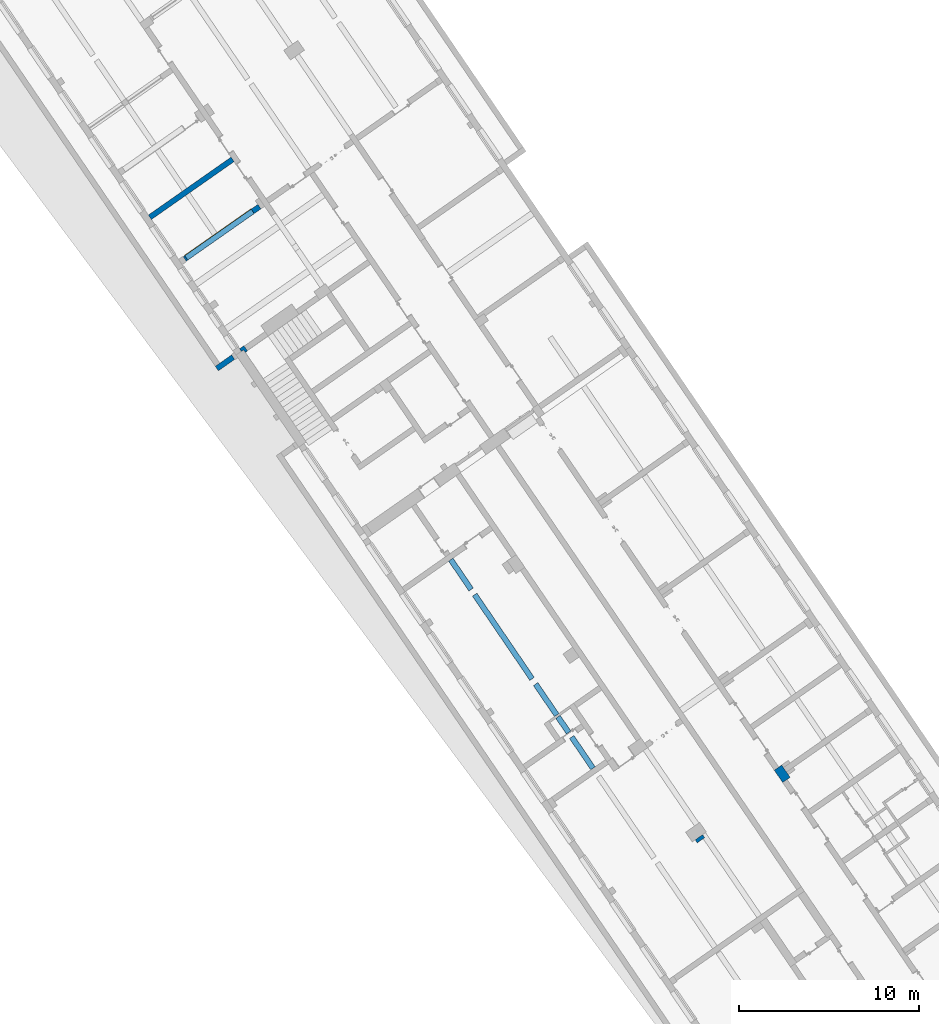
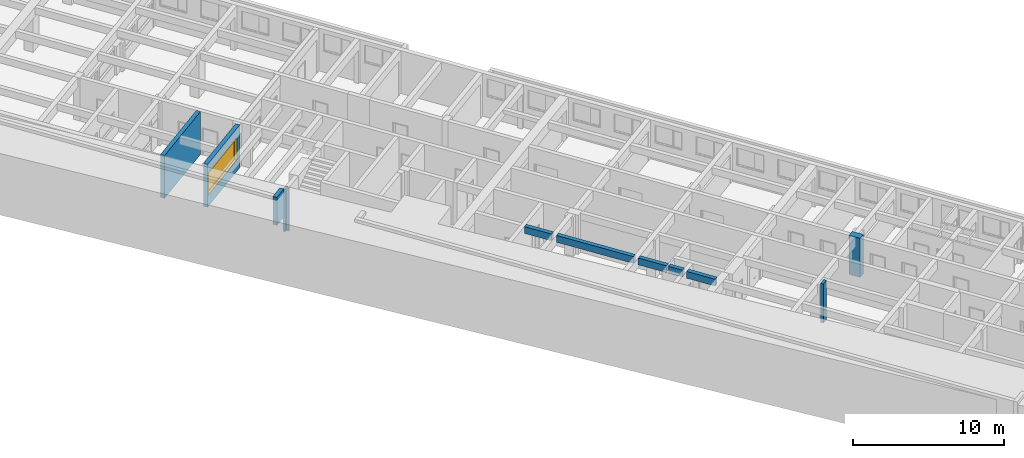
# One storey, part 16 of 112: 7 walls, 1 window, 1 opening.
"""IFC2X3 building model written with IfcOpenShell, lengths in millimetres."""

from ifc_helpers import new_model, entity, si_unit, converted_unit, derived_unit, direction, frame, frame_2d, origin, place, context, subcontext, project, spatial, polyline, rectangle, outline, extrude, source, transform, mapped, material, material_list, layer, layer_set, layer_usage, type_object, type_shapes, element, fill, save


model = new_model("IFC2X3")

# Units and contexts
model_context = context("Model", 3, precision=0.01, world=origin(), true_north=direction((6.123031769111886e-17, 1.0)))
body_context = subcontext(model_context, "Body", "Model", "MODEL_VIEW")
ifc_project = project(units=[si_unit("LENGTHUNIT", "METRE", prefix="MILLI"), si_unit("AREAUNIT", "SQUARE_METRE"), si_unit("VOLUMEUNIT", "CUBIC_METRE"), converted_unit("PLANEANGLEUNIT", "DEGREE", entity("IfcRatioMeasure", 0.017453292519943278), si_unit("PLANEANGLEUNIT", "RADIAN"), dimensions=[0, 0, 0, 0, 0, 0, 0]), si_unit("MASSUNIT", "GRAM", prefix="KILO"), derived_unit("MASSDENSITYUNIT", [(si_unit("MASSUNIT", "GRAM", prefix="KILO"), 1), (si_unit("LENGTHUNIT", "METRE"), -3)]), derived_unit("MOMENTOFINERTIAUNIT", [(si_unit("LENGTHUNIT", "METRE"), 4)]), si_unit("TIMEUNIT", "SECOND"), si_unit("FREQUENCYUNIT", "HERTZ"), si_unit("THERMODYNAMICTEMPERATUREUNIT", "DEGREE_CELSIUS"), derived_unit("THERMALTRANSMITTANCEUNIT", [(si_unit("MASSUNIT", "GRAM", prefix="KILO"), 1), (si_unit("THERMODYNAMICTEMPERATUREUNIT", "KELVIN"), -1), (si_unit("TIMEUNIT", "SECOND"), -3)]), derived_unit("THERMALCONDUCTANCEUNIT", [(si_unit("MASSUNIT", "GRAM", prefix="KILO"), 1), (si_unit("LENGTHUNIT", "METRE"), 1), (si_unit("THERMODYNAMICTEMPERATUREUNIT", "KELVIN"), -1), (si_unit("TIMEUNIT", "SECOND"), -3)]), derived_unit("VOLUMETRICFLOWRATEUNIT", [(si_unit("LENGTHUNIT", "METRE"), 3), (si_unit("TIMEUNIT", "SECOND"), -1)]), derived_unit("MASSFLOWRATEUNIT", [(si_unit("MASSUNIT", "GRAM", prefix="KILO"), 1), (si_unit("TIMEUNIT", "SECOND"), -1)]), derived_unit("ROTATIONALFREQUENCYUNIT", [(si_unit("TIMEUNIT", "SECOND"), -1)]), si_unit("ELECTRICCURRENTUNIT", "AMPERE"), si_unit("ELECTRICVOLTAGEUNIT", "VOLT"), si_unit("POWERUNIT", "WATT"), converted_unit("FORCEUNIT", "KIP", entity("IfcRatioMeasure", 2.088543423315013e-05), si_unit("FORCEUNIT", "NEWTON"), dimensions=[1, 1, -2, 0, 0, 0, 0]), si_unit("ILLUMINANCEUNIT", "LUX"), si_unit("LUMINOUSFLUXUNIT", "LUMEN"), si_unit("LUMINOUSINTENSITYUNIT", "CANDELA"), derived_unit("USERDEFINED", [(si_unit("MASSUNIT", "GRAM", prefix="KILO"), -1), (si_unit("LENGTHUNIT", "METRE"), -2), (si_unit("TIMEUNIT", "SECOND"), 3), (si_unit("LUMINOUSFLUXUNIT", "LUMEN"), 1)]), derived_unit("USERDEFINED", [(si_unit("MASSUNIT", "GRAM", prefix="KILO"), 1), (si_unit("LENGTHUNIT", "METRE"), 3), (si_unit("TIMEUNIT", "SECOND"), -3), (si_unit("ELECTRICCURRENTUNIT", "AMPERE"), -2)]), derived_unit("USERDEFINED", [(si_unit("LENGTHUNIT", "METRE"), 2), (si_unit("TIMEUNIT", "SECOND"), -2)]), derived_unit("SOUNDPOWERUNIT", [(si_unit("MASSUNIT", "GRAM", prefix="KILO"), 1), (si_unit("LENGTHUNIT", "METRE"), 2), (si_unit("TIMEUNIT", "SECOND"), -3)]), derived_unit("SOUNDPRESSUREUNIT", [(si_unit("MASSUNIT", "GRAM", prefix="KILO"), 1), (si_unit("LENGTHUNIT", "METRE"), -1), (si_unit("TIMEUNIT", "SECOND"), -2)]), derived_unit("LINEARVELOCITYUNIT", [(si_unit("LENGTHUNIT", "METRE"), 1), (si_unit("TIMEUNIT", "SECOND"), -1)]), si_unit("PRESSUREUNIT", "PASCAL"), derived_unit("USERDEFINED", [(si_unit("LENGTHUNIT", "METRE"), -2), (si_unit("MASSUNIT", "GRAM", prefix="KILO"), 1), (si_unit("TIMEUNIT", "SECOND"), -2)]), derived_unit("LINEARFORCEUNIT", [(si_unit("MASSUNIT", "GRAM", prefix="KILO"), 1), (si_unit("LENGTHUNIT", "METRE"), 1), (si_unit("TIMEUNIT", "SECOND"), -2), (si_unit("LENGTHUNIT", "METRE"), -1)]), derived_unit("PLANARFORCEUNIT", [(si_unit("MASSUNIT", "GRAM", prefix="KILO"), 1), (si_unit("LENGTHUNIT", "METRE"), 1), (si_unit("TIMEUNIT", "SECOND"), -2), (si_unit("LENGTHUNIT", "METRE"), -2)]), derived_unit("SPECIFICHEATCAPACITYUNIT", [(si_unit("LENGTHUNIT", "METRE"), 2), (si_unit("TIMEUNIT", "SECOND"), -2), (si_unit("THERMODYNAMICTEMPERATUREUNIT", "KELVIN"), -1)]), derived_unit("VAPORPERMEABILITYUNIT", [(si_unit("TIMEUNIT", "SECOND"), 1), (si_unit("LENGTHUNIT", "METRE"), -1)]), derived_unit("DYNAMICVISCOSITYUNIT", [(si_unit("MASSUNIT", "GRAM", prefix="KILO"), 1), (si_unit("LENGTHUNIT", "METRE"), -1), (si_unit("TIMEUNIT", "SECOND"), -1)]), derived_unit("THERMALEXPANSIONCOEFFICIENTUNIT", [(si_unit("THERMODYNAMICTEMPERATUREUNIT", "KELVIN"), -1)])], contexts=[model_context])

# Site, building, storey
site_placement = place(None, frame((0.0, 0.0, 0.0), z_axis=(0.0, 0.0, 1.0), x_axis=(0.8191520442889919, 0.5735764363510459, 0.0)))
site = spatial("IfcSite", under=ifc_project, at=site_placement, Name="Default", CompositionType="ELEMENT")
building_placement = place(site_placement, origin())
building = spatial("IfcBuilding", under=site, at=building_placement, CompositionType="ELEMENT")
storey_placement = place(building_placement, frame((0.0, 0.0, -3600.0)))
storey = spatial("IfcBuildingStorey", under=building, at=storey_placement, Name="0.UG -3.60", CompositionType="ELEMENT", Elevation=-3600.0000000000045)

# Wall, opening, window
ifc_material_1 = material(Name="Analytical Wall Surface_CJC")
ifc_layer_1 = layer(ifc_material_1, 300.0)
ifc_layer_set_1 = layer_set([ifc_layer_1], Name="Basic Wall:Wand_Innen_30")
ifc_layer_usage_1 = layer_usage(ifc_layer_set_1, "AXIS2", "POSITIVE", -150.0)
wall_type_1 = type_object("IfcWallType", Name="Basic Wall:Wand_Innen_30", PredefinedType="STANDARD", material=ifc_layer_set_1)
wall_1_placement = place(storey_placement, frame((-222371.85178748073, 121696.35891435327, 0.0)))
wall_1 = element("IfcWallStandardCase", 1, at=wall_1_placement, inside=storey, type_object=wall_type_1, material=ifc_layer_usage_1, Name="Basic Wall:Wand_Innen_30", ObjectType="Basic Wall:Wand_Innen_30", context=body_context, shape_type="SweptSolid", body=[
    extrude(rectangle(XDim=5055.50145446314, YDim=300.0000000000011, at=frame_2d((2527.75072723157, -2.0037305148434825e-12), x_axis=(-1.0, 0.0))), origin(), (0.0, 0.0, 1.0), 3450.0),
])
opening_placement = place(wall_1_placement, frame((98.46314995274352, -150.0, 900.0)))
opening = element("IfcOpeningElement", 2, at=opening_placement, cuts=wall_1, Name="M_Instance-Window-Fixed:508x270:1", ObjectType="Opening", context=body_context, shape_type="SweptSolid", body=[
    extrude(rectangle(XDim=1799.9999999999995, YDim=4500.0, at=frame_2d((899.9999999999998, 2250.0), x_axis=(-1.0, 0.0))), frame((0.0, 0.0, 0.0), z_axis=(0.0, 1.0, 0.0), x_axis=(0.0, 0.0, 1.0)), (0.0, 0.0, 1.0), 300.0),
])
ifc_material_2 = material(Name="Sash")
ifc_material_3 = material(Name="Glass")
ifc_material_4 = material(Name="<Unnamed>")
ifc_material_list = material_list([ifc_material_2, ifc_material_3, ifc_material_4])
window_style = type_object("IfcWindowStyle", Name="M_Instance-Window-Fixed:508x270", ConstructionType="NOTDEFINED", OperationType="NOTDEFINED", ParameterTakesPrecedence=False, Sizeable=False, material=ifc_material_list)
shared_shape = source(origin(), body_context, "Body", "SweptSolid", [
    extrude(rectangle(XDim=25.400000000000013, YDim=4500.000000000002, at=frame_2d((1.687538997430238e-14, 0.0), x_axis=(1.0, 0.0))), frame((2250.0, 312.70000000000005, 0.0), z_axis=(0.0, 0.0, 1.0), x_axis=(0.0, -1.0, 0.0)), (0.0, 0.0, 1.0), 19.049999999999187),
    extrude(rectangle(XDim=12.699999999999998, YDim=4372.999999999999, at=frame_2d((-4.440892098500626e-15, 0.0), x_axis=(1.0, 0.0))), frame((2250.0, 177.77500000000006, 63.49999999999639), z_axis=(0.0, 0.0, 1.0), x_axis=(0.0, 1.0, 0.0)), (0.0, 0.0, 1.0), 1673.0000000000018),
    extrude(outline(polyline([(-2230.95, -880.9500000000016), (2230.95, -880.9500000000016), (2230.95, 880.9500000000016), (-2230.95, 880.9500000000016), (-2230.95, -880.9500000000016)]), holes=[polyline([(-2186.4999999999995, -836.5000000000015), (-2186.4999999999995, 836.5000000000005), (2186.5, 836.5000000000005), (2186.5, -836.5000000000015), (-2186.4999999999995, -836.5000000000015)])]), frame((2250.0, 155.55000000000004, 900.0), z_axis=(0.0, 1.0, 0.0), x_axis=(1.0, 0.0, 0.0)), (0.0, 0.0, 1.0), 44.449999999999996),
    extrude(outline(polyline([(-2250.0, -900.0), (2250.0, -900.0), (2250.0, 900.0), (-2250.0, 900.0), (-2250.0, -900.0)]), holes=[polyline([(-2218.250000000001, -868.2499999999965), (-2218.250000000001, 868.2500000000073), (2218.2499999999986, 868.2500000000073), (2218.2499999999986, -868.2499999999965), (-2218.250000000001, -868.2499999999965)])]), frame((2250.0, 0.0, 900.0), z_axis=(0.0, 1.0, 0.0), x_axis=(1.0, 0.0, 0.0)), (0.0, 0.0, 1.0), 155.55000000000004),
    extrude(outline(polyline([(-900.0, -2250.0), (900.0, -2250.0), (900.0, 2250.0), (-900.0, 2250.0), (-900.0, -2250.0)]), holes=[polyline([(-880.9499999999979, -2230.949999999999), (-880.9499999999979, 2230.9500000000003), (880.9500000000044, 2230.9500000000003), (880.9500000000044, -2230.949999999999), (-880.9499999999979, -2230.949999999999)])]), frame((2250.0, 155.55000000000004, 900.0), z_axis=(0.0, 1.0, 0.0), x_axis=(0.0, 0.0, -1.0)), (0.0, 0.0, 1.0), 144.45),
])
type_shapes(window_style, [shared_shape])
window_placement = place(opening_placement, origin())
window = element("IfcWindow", 3, at=window_placement, inside=storey, type_object=window_style, material=ifc_material_list, Name="M_Instance-Window-Fixed:508x270", ObjectType="M_Instance-Window-Fixed:508x270", OverallHeight=1799.9999999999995, OverallWidth=4500.000000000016, context=body_context, shape_type="MappedRepresentation", body=[
    mapped(shared_shape, transform((0.0, 0.0, 0.0), scale=1.0)),
])
fill(opening, window)

# Walls
ifc_layer_usage_2 = layer_usage(ifc_layer_set_1, "AXIS2", "NEGATIVE", 150.0)
wall_2_placement = place(storey_placement, frame((-217031.32087256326, 124696.35891435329, 0.0), z_axis=(0.0, 0.0, 1.0), x_axis=(-1.0, 0.0, 0.0)))
element("IfcWallStandardCase", 4, at=wall_2_placement, inside=storey, type_object=wall_type_1, material=ifc_layer_usage_2, Name="Basic Wall:Wand_Innen_30", ObjectType="Basic Wall:Wand_Innen_30", context=body_context, shape_type="SweptSolid", body=[
    extrude(outline(polyline([(5600.392310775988, -150.0), (5604.211496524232, 150.0), (3.8191857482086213, 150.0), (0.0, -150.0), (5600.392310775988, -150.0)])), origin(), (0.0, 0.0, 1.0), 3450.0),
])
wall_3_placement = place(storey_placement, frame((-220028.0966832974, 85569.48648739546, 2900.0), z_axis=(0.0, 0.0, 1.0), x_axis=(0.012482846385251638, 0.9999220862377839, 0.0)))
element("IfcWall", 5, at=wall_3_placement, inside=storey, type_object=wall_type_1, Name="Basic Wall:Wand_Innen_30", ObjectType="Basic Wall:Wand_Innen_30", context=body_context, shape_type="SweptSolid", body=[
    extrude(outline(polyline([(-1048.2092429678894, -150.0), (1051.954388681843, -150.0), (1048.2092429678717, 150.0), (-1051.9543886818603, 150.0), (-1048.2092429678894, -150.0)])), frame((1051.9543886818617, 0.0, 0.0)), (0.0, 0.0, 1.0), 549.9999999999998),
    extrude(outline(polyline([(-998.2053469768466, -150.0), (1001.9504926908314, -150.0), (998.2053469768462, 150.0), (-1001.9504926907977, 150.0), (-998.2053469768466, -150.0)])), frame((13002.885530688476, 0.0, 0.0), z_axis=(0.0, 0.0, 1.0), x_axis=(-1.0, 0.0, 0.0)), (0.0, 0.0, 1.0), 549.9999999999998),
    extrude(outline(polyline([(-2823.347550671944, -150.0), (2827.0926963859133, -150.0), (2823.3475506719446, 150.0), (-2827.092696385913, 150.0), (-2823.347550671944, -150.0)])), frame((8827.560215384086, 0.0, 0.0)), (0.0, 0.0, 1.0), 549.9999999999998),
    extrude(outline(polyline([(-1035.7082689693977, -150.0), (1039.4534146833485, -150.0), (1035.7082689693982, 150.0), (-1039.4534146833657, 150.0), (-1035.7082689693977, -150.0)])), frame((4614.731978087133, 0.0, 0.0), z_axis=(0.0, 0.0, 1.0), x_axis=(-1.0, 0.0, 0.0)), (0.0, 0.0, 1.0), 549.9999999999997),
    extrude(outline(polyline([(-523.1683350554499, -150.0), (526.91348076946, -150.0), (523.1683350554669, 150.0), (-526.9134807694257, 150.0), (-523.1683350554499, -150.0)])), frame((2927.100488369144, 0.0, 0.0)), (0.0, 0.0, 1.0), 549.9999999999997),
])
ifc_layer_2 = layer(ifc_material_1, 350.0)
ifc_layer_set_2 = layer_set([ifc_layer_2], Name="Basic Wall:Wand_Innen_35")
ifc_layer_usage_3 = layer_usage(ifc_layer_set_2, "AXIS2", "POSITIVE", -175.0)
wall_type_2 = type_object("IfcWallType", Name="Basic Wall:Wand_Innen_35", PredefinedType="STANDARD", material=ifc_layer_set_2)
wall_4_placement = place(storey_placement, frame((-222448.23550244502, 115696.35891435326, 0.0), z_axis=(0.0, 0.0, 1.0), x_axis=(-1.0, 0.0, 0.0)))
element("IfcWallStandardCase", 6, at=wall_4_placement, inside=storey, type_object=wall_type_2, material=ifc_layer_usage_3, Name="Basic Wall:Wand_Innen_35", ObjectType="Basic Wall:Wand_Innen_35", context=body_context, shape_type="SweptSolid", body=[
    extrude(outline(polyline([(297.73498786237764, -175.0), (299.9912059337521, 2.2276778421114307), (149.99120543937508, 3.182396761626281), (152.17854991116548, 175.0), (0.0, 175.0), (0.0, 150.0), (0.0, -150.0), (0.0, -175.0), (297.73498786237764, -175.0)])), origin(), (0.0, 0.0, 1.0), 3450.0),
])
ifc_layer_3 = layer(ifc_material_1, 500.00000000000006)
ifc_layer_set_3 = layer_set([ifc_layer_3], Name="Basic Wall:Wand_Innen_50")
ifc_layer_usage_4 = layer_usage(ifc_layer_set_3, "AXIS2", "POSITIVE", -250.00000000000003)
wall_type_3 = type_object("IfcWallType", Name="Basic Wall:Wand_Innen_50", PredefinedType="STANDARD", material=ifc_layer_set_3)
wall_5_placement = place(storey_placement, frame((-217416.56246984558, 78871.35891435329, 300.0), z_axis=(0.0, 0.0, 1.0), x_axis=(0.0, 1.0, 0.0)))
element("IfcWallStandardCase", 7, at=wall_5_placement, inside=storey, type_object=wall_type_3, material=ifc_layer_usage_4, Name="Basic Wall:Wand_Innen_50", ObjectType="Basic Wall:Wand_Innen_50", context=body_context, shape_type="SweptSolid", body=[
    extrude(rectangle(XDim=199.99999999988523, YDim=500.0000000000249, at=frame_2d((99.99999999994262, 1.1368683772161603e-13), x_axis=(-1.0, 0.0))), origin(), (0.0, 0.0, 1.0), 3150.0),
])
ifc_layer_usage_5 = layer_usage(ifc_layer_set_3, "AXIS2", "NEGATIVE", 250.00000000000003)
wall_6_placement = place(storey_placement, frame((-211615.8335846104, 78893.28737748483, 300.0), z_axis=(0.0, 0.0, 1.0), x_axis=(0.012729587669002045, 0.9999189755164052, 0.0)))
element("IfcWallStandardCase", 8, at=wall_6_placement, inside=storey, type_object=wall_type_3, material=ifc_layer_usage_5, Name="Basic Wall:Wand_Innen_50", ObjectType="Basic Wall:Wand_Innen_50", context=body_context, shape_type="SweptSolid", body=[
    extrude(rectangle(XDim=824.4697952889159, YDim=500.00000000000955, at=frame_2d((412.23489764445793, 5.101696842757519e-12), x_axis=(-1.0, 0.0))), origin(), (0.0, 0.0, 1.0), 3150.0),
])
ifc_layer_4 = layer(ifc_material_1, 300.0)
ifc_layer_set_4 = layer_set([ifc_layer_4], Name="Basic Wall:Wand_Aussen_30")
ifc_layer_usage_6 = layer_usage(ifc_layer_set_4, "AXIS2", "NEGATIVE", 150.0)
wall_type_4 = type_object("IfcWallType", Name="Basic Wall:Wand_Aussen_30", PredefinedType="STANDARD", material=ifc_layer_set_4)
wall_7_placement = place(storey_placement, frame((-223300.2139717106, 115696.35891435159, 1600.0), z_axis=(0.0, 0.0, 1.0), x_axis=(-1.0, 0.0, 0.0)))
element("IfcWallStandardCase", 9, at=wall_7_placement, inside=storey, type_object=wall_type_4, material=ifc_layer_usage_6, Name="Basic Wall:Wand_Aussen_30", ObjectType="Basic Wall:Wand_Aussen_30", context=body_context, shape_type="SweptSolid", body=[
    extrude(outline(polyline([(1096.2699484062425, -150.0), (1100.089134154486, 150.0), (0.0, 150.0), (0.0, -150.0), (796.2456390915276, -150.0), (1096.2699484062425, -150.0)])), origin(), (0.0, 0.0, 1.0), 2250.0),
])

save(model, "model.ifc")
